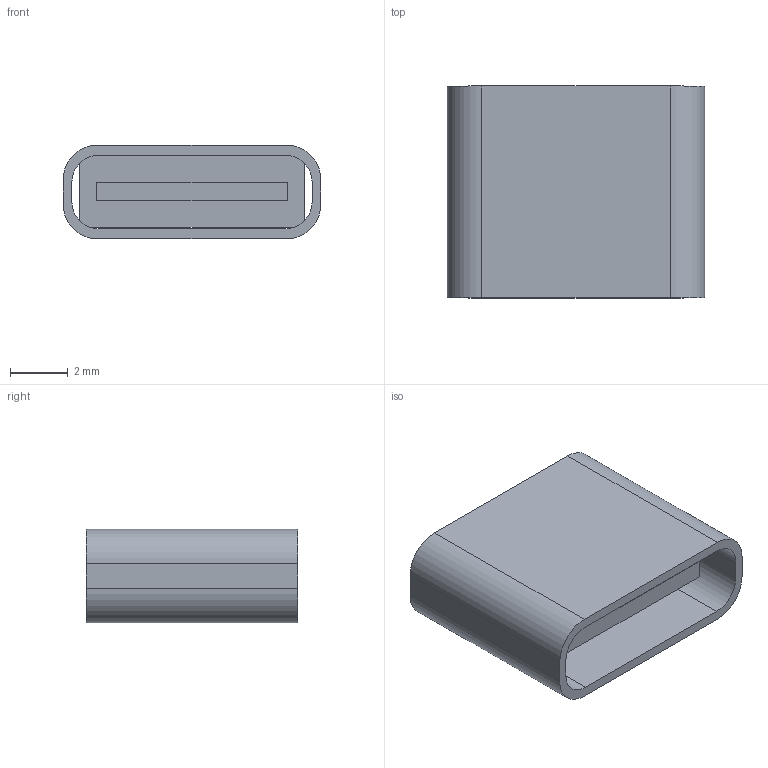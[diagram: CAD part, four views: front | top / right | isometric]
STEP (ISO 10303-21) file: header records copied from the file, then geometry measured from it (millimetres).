
FILE_DESCRIPTION(('Open CASCADE Model'),'2;1');
FILE_NAME('Open CASCADE Shape Model','2026-09-07T01:16:41',('Author'),( 'Open CASCADE'),'Open CASCADE STEP processor 7.9','Open CASCADE 7.9' ,'Unknown');
FILE_SCHEMA(('AUTOMOTIVE_DESIGN { 1 0 10303 214 1 1 1 1 }'));
Length unit declared in the file: millimetre
Products named in the file (4): HRO_TYPE_C_31_M_12_envelope; body_0; body_1; body_2
Assembly tree (3 placements, depth 2):
  HRO_TYPE_C_31_M_12_envelope
    body_0
    body_1
    body_2
Bounding box: 8.94 x 7.35 x 3.26 mm (x, y, z)
Volume: 95.3 mm3; surface area: 469.2 mm2
Topology: 3 solids, 3 shells, 30 faces, 72 edges, 48 vertices
Faces by surface type: plane 22, cylinder 8
Entity records: 1894 total; most frequent: CARTESIAN_POINT 338, DIRECTION 280, LINE 168, VECTOR 168, ORIENTED_EDGE 144, PCURVE 144, DEFINITIONAL_REPRESENTATION 144, EDGE_CURVE 72
